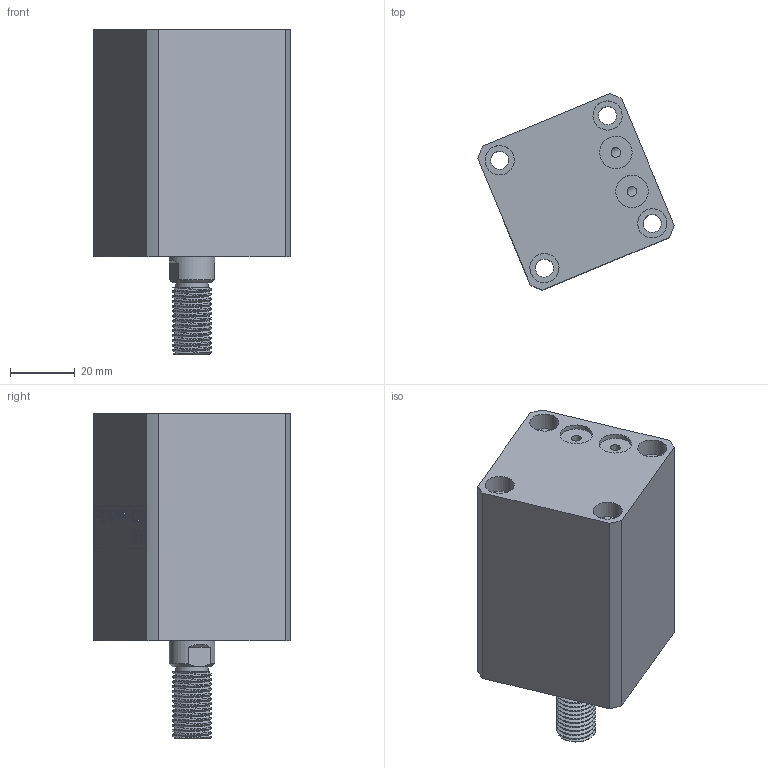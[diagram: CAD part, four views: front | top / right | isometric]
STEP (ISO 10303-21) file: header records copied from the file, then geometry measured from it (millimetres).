
FILE_DESCRIPTION(/* description */ (''),/* implementation_level */ '2;1');
FILE_NAME(/* name */ 'CHTB-sdmb25x25w.stp',/* time_stamp */ '2022-04-29T15:07:39+08:00',/* author */ (''),/* organization */ (''),/* preprocessor_version */ 'ST-DEVELOPER v16.7',/* originating_system */ 'SIEMENS PLM Software NX 12.0',/* authorisation */ '');
FILE_SCHEMA (('AUTOMOTIVE_DESIGN { 1 0 10303 214 3 1 1 1 }'));
Length unit declared in the file: millimetre
Products named in the file (1): CHTB-sdmb25x25w
Bounding box: 60.55 x 60.55 x 100 mm (x, y, z)
Volume: 144701.4 mm3; surface area: 40134 mm2
Topology: 3 solids, 3 shells, 490 faces, 1366 edges, 929 vertices
Faces by surface type: plane 318, extrusion 112, cylinder 44, bspline 10, cone 5, torus 1
Full cylindrical faces by diameter (mm): 3 x4, 4 x2, 5.6 x4, 9 x8, 10 x3, 14 x2, 21 x2, 23 x2, 25 x5, 31 x1
Entity records: 24375 total; most frequent: CARTESIAN_POINT 9767, ORIENTED_EDGE 2626, DIRECTION 1929, EDGE_CURVE 1313, VECTOR 1019, VERTEX_POINT 915, LINE 907, EDGE_LOOP 590
